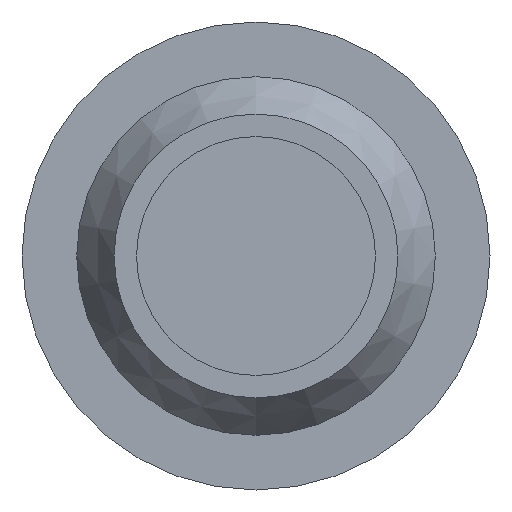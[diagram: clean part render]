
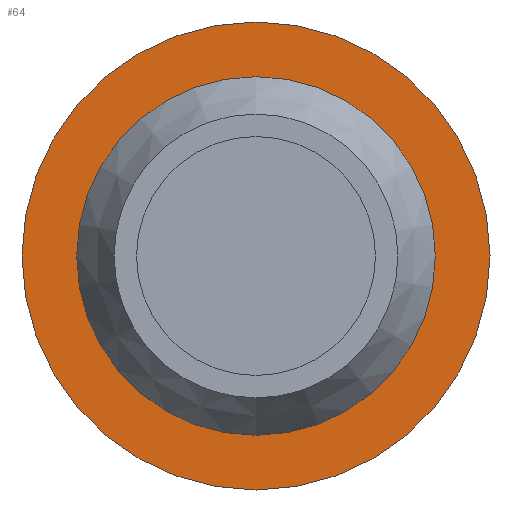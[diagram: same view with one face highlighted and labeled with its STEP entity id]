
A CAD part, front view. The second image highlights one B-rep face of the part: STEP entity #64.
In plain terms, the highlighted planar face has unit normal (0, -1, 0).
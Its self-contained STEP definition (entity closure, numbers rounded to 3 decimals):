
#3 = AXIS2_PLACEMENT_3D ( 'NONE', #205, #23, #96 ) ;
#9 = ORIENTED_EDGE ( 'NONE', *, *, #76, .F. ) ;
#16 = AXIS2_PLACEMENT_3D ( 'NONE', #141, #138, #55 ) ;
#21 = EDGE_LOOP ( 'NONE', ( #103 ) ) ;
#23 = DIRECTION ( 'NONE',  ( 0., -1., 0. ) ) ;
#28 = DIRECTION ( 'NONE',  ( 0., 1., 0. ) ) ;
#29 = CARTESIAN_POINT ( 'NONE',  ( 0., -2., 7.83 ) ) ;
#55 = DIRECTION ( 'NONE',  ( 0., 0., 1. ) ) ;
#64 = ADVANCED_FACE ( 'NONE', ( #125, #126 ), #100, .F. ) ;
#68 = CIRCLE ( 'NONE', #3, 5.75 ) ;
#76 = EDGE_CURVE ( 'NONE', #180, #180, #68, .T. ) ;
#85 = CARTESIAN_POINT ( 'NONE',  ( 0., -2., 5.75 ) ) ;
#87 = AXIS2_PLACEMENT_3D ( 'NONE', #124, #28, #111 ) ;
#96 = DIRECTION ( 'NONE',  ( 0., 0., 1. ) ) ;
#100 = PLANE ( 'NONE',  #16 ) ;
#103 = ORIENTED_EDGE ( 'NONE', *, *, #137, .F. ) ;
#111 = DIRECTION ( 'NONE',  ( 0., 0., 1. ) ) ;
#118 = EDGE_LOOP ( 'NONE', ( #9 ) ) ;
#124 = CARTESIAN_POINT ( 'NONE',  ( 0., -2., 0. ) ) ;
#125 = FACE_OUTER_BOUND ( 'NONE', #21, .T. ) ;
#126 = FACE_BOUND ( 'NONE', #118, .T. ) ;
#137 = EDGE_CURVE ( 'NONE', #195, #195, #194, .T. ) ;
#138 = DIRECTION ( 'NONE',  ( 0., 1., 0. ) ) ;
#141 = CARTESIAN_POINT ( 'NONE',  ( 0., -2., -5.105 ) ) ;
#180 = VERTEX_POINT ( 'NONE', #85 ) ;
#194 = CIRCLE ( 'NONE', #87, 7.83 ) ;
#195 = VERTEX_POINT ( 'NONE', #29 ) ;
#205 = CARTESIAN_POINT ( 'NONE',  ( 0., -2., 0. ) ) ;
